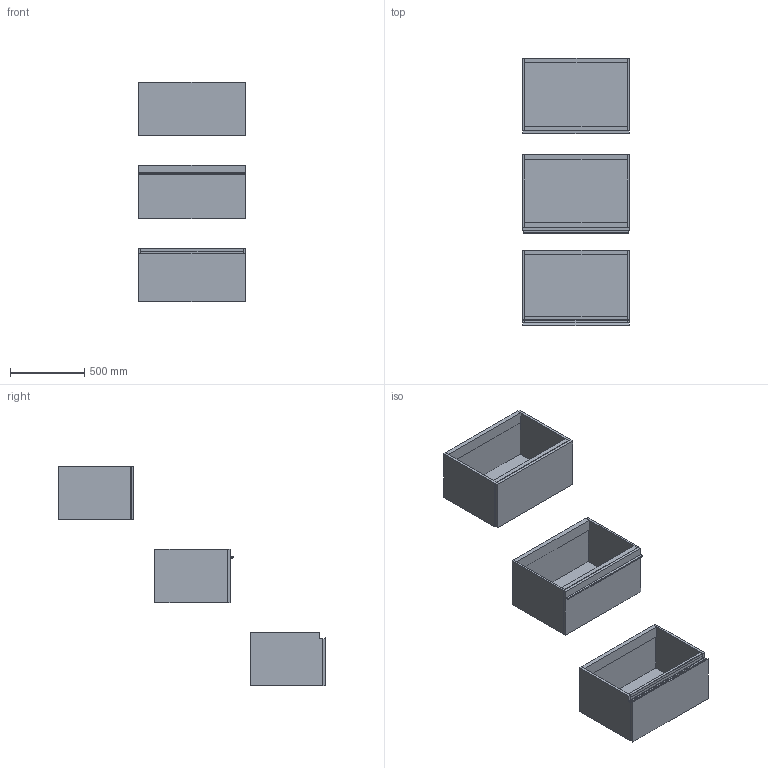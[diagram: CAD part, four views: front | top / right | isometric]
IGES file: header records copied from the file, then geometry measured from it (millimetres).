
Start section: Data from Parasolid IGES Translator 19.0.9, Copyright(c) 2006 Siemens PL M Software. All Rights Reserved.
Global section: file name: noorth-SI-H 36 D 51 W 72_8362.igs; native system: By Siemens PLM Incorporated; preprocessor: XPlus GENERIC/IGES 19.0.9; author: Noname; organization: Noname; date: 20200601.094627; units: metre
Bounding box: 720 x 1799.15 x 1480.01 mm (x, y, z)
Volume: 55094548.3 mm3; surface area: 8150485.3 mm2
Topology: 23 solids, 23 shells, 196 faces, 418 edges, 258 vertices
Faces by surface type: plane 152, extrusion 16, bspline 16, cylinder 12
